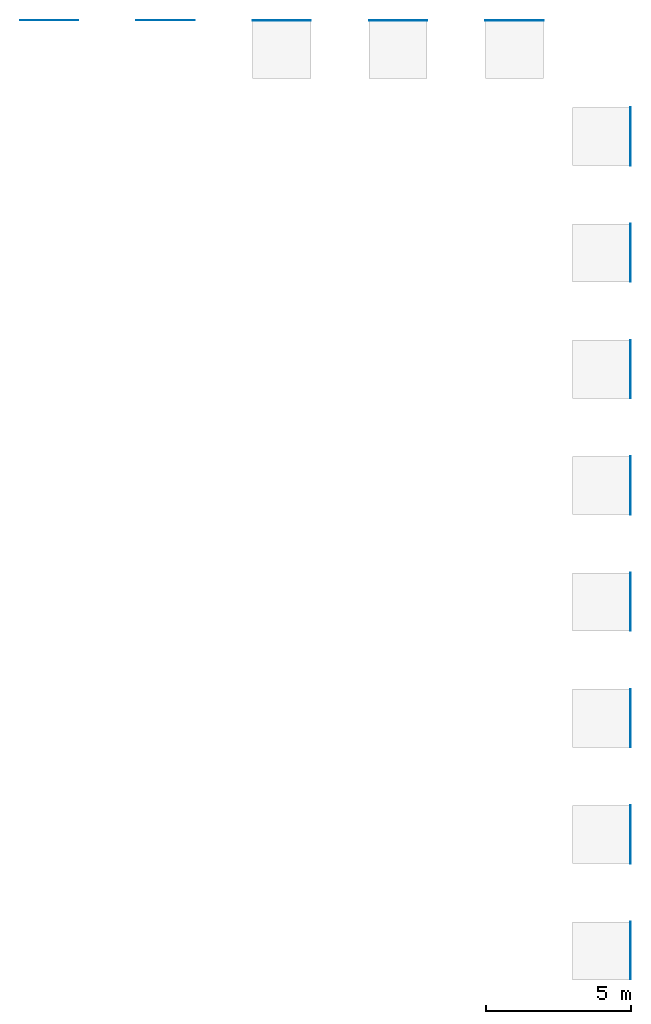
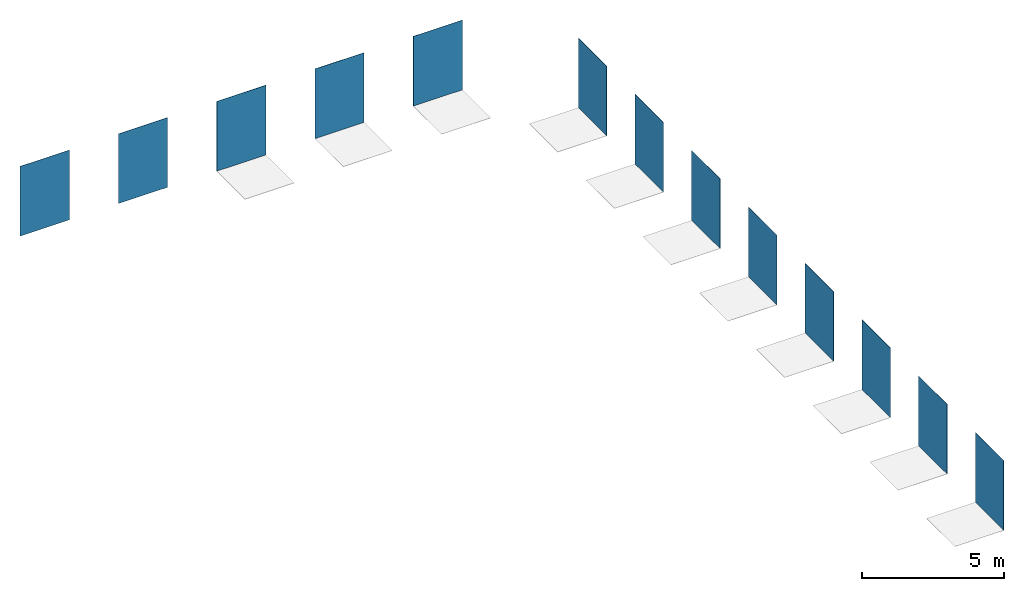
# One storey, part 1 of 2: 13 walls.
"""IFC2X3 building model written with IfcOpenShell, lengths in millimetres."""

from ifc_helpers import new_model, entity, si_unit, converted_unit, derived_unit, direction, frame, frame_2d, origin, place, context, subcontext, project, spatial, rectangle, extrude, material, layer, layer_set, layer_usage, type_object, element, save


model = new_model("IFC2X3")

# Units and contexts
model_context = context("Model", 3, precision=0.01, world=origin(), true_north=direction((6.12303176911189e-17, 1.0)))
body_context = subcontext(model_context, "Body", "Model", "MODEL_VIEW")
ifc_project = project(units=[si_unit("LENGTHUNIT", "METRE", prefix="MILLI"), si_unit("AREAUNIT", "SQUARE_METRE"), si_unit("VOLUMEUNIT", "CUBIC_METRE"), converted_unit("PLANEANGLEUNIT", "DEGREE", entity("IfcRatioMeasure", 0.0174532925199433), si_unit("PLANEANGLEUNIT", "RADIAN"), dimensions=[0, 0, 0, 0, 0, 0, 0]), si_unit("MASSUNIT", "GRAM", prefix="KILO"), derived_unit("MASSDENSITYUNIT", [(si_unit("MASSUNIT", "GRAM", prefix="KILO"), 1), (si_unit("LENGTHUNIT", "METRE"), -3)]), si_unit("TIMEUNIT", "SECOND"), si_unit("FREQUENCYUNIT", "HERTZ"), si_unit("THERMODYNAMICTEMPERATUREUNIT", "DEGREE_CELSIUS"), derived_unit("THERMALTRANSMITTANCEUNIT", [(si_unit("MASSUNIT", "GRAM", prefix="KILO"), 1), (si_unit("THERMODYNAMICTEMPERATUREUNIT", "KELVIN"), -1), (si_unit("TIMEUNIT", "SECOND"), -3)]), derived_unit("VOLUMETRICFLOWRATEUNIT", [(si_unit("LENGTHUNIT", "METRE"), 3), (si_unit("TIMEUNIT", "SECOND"), -1)]), si_unit("ELECTRICCURRENTUNIT", "AMPERE"), si_unit("ELECTRICVOLTAGEUNIT", "VOLT"), si_unit("POWERUNIT", "WATT"), si_unit("FORCEUNIT", "NEWTON", prefix="KILO"), si_unit("ILLUMINANCEUNIT", "LUX"), si_unit("LUMINOUSFLUXUNIT", "LUMEN"), si_unit("LUMINOUSINTENSITYUNIT", "CANDELA"), derived_unit("USERDEFINED", [(si_unit("MASSUNIT", "GRAM", prefix="KILO"), -1), (si_unit("LENGTHUNIT", "METRE"), -2), (si_unit("TIMEUNIT", "SECOND"), 3), (si_unit("LUMINOUSFLUXUNIT", "LUMEN"), 1)]), derived_unit("LINEARVELOCITYUNIT", [(si_unit("LENGTHUNIT", "METRE"), 1), (si_unit("TIMEUNIT", "SECOND"), -1)]), si_unit("PRESSUREUNIT", "PASCAL"), derived_unit("USERDEFINED", [(si_unit("LENGTHUNIT", "METRE"), -2), (si_unit("MASSUNIT", "GRAM", prefix="KILO"), 1), (si_unit("TIMEUNIT", "SECOND"), -2)])], contexts=[model_context])

# Site, building, storey
site_placement = place(None, origin())
site = spatial("IfcSite", under=ifc_project, at=site_placement, Name="Default", CompositionType="ELEMENT")
building_placement = place(site_placement, origin())
building = spatial("IfcBuilding", under=site, at=building_placement, CompositionType="ELEMENT")
storey_placement = place(building_placement, origin())
storey = spatial("IfcBuildingStorey", under=building, at=storey_placement, Name="Level 1", CompositionType="ELEMENT", Elevation=0.0)

# Walls
ifc_material_1 = material(Name="PGR_Porcelanosa_CeramicTiles_Boston_Topo-596x596mm-100179350")
ifc_layer_1 = layer(ifc_material_1, 10.5)
ifc_layer_set_1 = layer_set([ifc_layer_1], Name="Basic Wall:PGR_Porcelanosa_CeramicTiles_Boston_Topo-596x596mm-100179350")
ifc_layer_usage_1 = layer_usage(ifc_layer_set_1, "AXIS2", "POSITIVE", -5.25)
wall_type_1 = type_object("IfcWallType", Name="Basic Wall:PGR_Porcelanosa_CeramicTiles_Boston_Topo-596x596mm-100179350", PredefinedType="STANDARD", material=ifc_layer_set_1)
wall_1_placement = place(storey_placement, frame((2521.82742659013, -1501.98267476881, 0.0), z_axis=(0.0, 0.0, 1.0), x_axis=(0.0, -1.0, 0.0)))
element("IfcWallStandardCase", 1, at=wall_1_placement, inside=storey, type_object=wall_type_1, material=ifc_layer_usage_1, Name="Basic Wall:PGR_Porcelanosa_CeramicTiles_Boston_Topo-596x596mm-100179350", ObjectType="Basic Wall:PGR_Porcelanosa_CeramicTiles_Boston_Topo-596x596mm-100179350", context=body_context, shape_type="SweptSolid", body=[
    extrude(rectangle(XDim=2000.0, YDim=10.4999999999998, at=frame_2d((1000.0, 7.54951656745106e-15), x_axis=(-1.0, 0.0))), origin(), (0.0, 0.0, 1.0), 3000.00000000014),
])
ifc_material_2 = material(Name="PGR_Porcelanosa_CeramicTiles_Boston_Bone-435x659mm-100179098")
ifc_layer_2 = layer(ifc_material_2, 10.5)
ifc_layer_set_2 = layer_set([ifc_layer_2], Name="Basic Wall:PGR_Porcelanosa_CeramicTiles_Boston_Bone-435x659mm-100179098")
ifc_layer_usage_2 = layer_usage(ifc_layer_set_2, "AXIS2", "POSITIVE", -5.25)
wall_type_2 = type_object("IfcWallType", Name="Basic Wall:PGR_Porcelanosa_CeramicTiles_Boston_Bone-435x659mm-100179098", PredefinedType="STANDARD", material=ifc_layer_set_2)
wall_2_placement = place(storey_placement, frame((2521.82742659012, -5501.98267476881, 0.0), z_axis=(0.0, 0.0, 1.0), x_axis=(0.0, -1.0, 0.0)))
element("IfcWallStandardCase", 2, at=wall_2_placement, inside=storey, type_object=wall_type_2, material=ifc_layer_usage_2, Name="Basic Wall:PGR_Porcelanosa_CeramicTiles_Boston_Bone-435x659mm-100179098", ObjectType="Basic Wall:PGR_Porcelanosa_CeramicTiles_Boston_Bone-435x659mm-100179098", context=body_context, shape_type="SweptSolid", body=[
    extrude(rectangle(XDim=2000.0, YDim=10.4999999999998, at=frame_2d((1000.0, 7.54951656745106e-15), x_axis=(-1.0, 0.0))), origin(), (0.0, 0.0, 1.0), 3000.00000000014),
])
ifc_material_3 = material(Name="PGR_Porcelanosa_CeramicTiles_Boston_Grafito-435x659mm-100179191")
ifc_layer_3 = layer(ifc_material_3, 10.5)
ifc_layer_set_3 = layer_set([ifc_layer_3], Name="Basic Wall:PGR_Porcelanosa_CeramicTiles_Boston_Grafito-435x659mm-100179191")
ifc_layer_usage_3 = layer_usage(ifc_layer_set_3, "AXIS2", "POSITIVE", -5.25)
wall_type_3 = type_object("IfcWallType", Name="Basic Wall:PGR_Porcelanosa_CeramicTiles_Boston_Grafito-435x659mm-100179191", PredefinedType="STANDARD", material=ifc_layer_set_3)
wall_3_placement = place(storey_placement, frame((2521.82742659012, -9501.98267476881, 0.0), z_axis=(0.0, 0.0, 1.0), x_axis=(0.0, -1.0, 0.0)))
element("IfcWallStandardCase", 3, at=wall_3_placement, inside=storey, type_object=wall_type_3, material=ifc_layer_usage_3, Name="Basic Wall:PGR_Porcelanosa_CeramicTiles_Boston_Grafito-435x659mm-100179191", ObjectType="Basic Wall:PGR_Porcelanosa_CeramicTiles_Boston_Grafito-435x659mm-100179191", context=body_context, shape_type="SweptSolid", body=[
    extrude(rectangle(XDim=2000.0, YDim=10.4999999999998, at=frame_2d((1000.0, 7.54951656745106e-15), x_axis=(-1.0, 0.0))), origin(), (0.0, 0.0, 1.0), 3000.00000000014),
])
ifc_material_4 = material(Name="PGR_Porcelanosa_CeramicTiles_Boston_Grafito_Antislip-435x659mm-100180940")
ifc_layer_4 = layer(ifc_material_4, 10.5)
ifc_layer_set_4 = layer_set([ifc_layer_4], Name="Basic Wall:PGR_Porcelanosa_CeramicTiles_Boston_Grafito_Antislip-435x659mm-100180940")
ifc_layer_usage_4 = layer_usage(ifc_layer_set_4, "AXIS2", "POSITIVE", -5.25)
wall_type_4 = type_object("IfcWallType", Name="Basic Wall:PGR_Porcelanosa_CeramicTiles_Boston_Grafito_Antislip-435x659mm-100180940", PredefinedType="STANDARD", material=ifc_layer_set_4)
wall_4_placement = place(storey_placement, frame((2521.82742659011, -13501.9826747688, 0.0), z_axis=(0.0, 0.0, 1.0), x_axis=(0.0, -1.0, 0.0)))
element("IfcWallStandardCase", 4, at=wall_4_placement, inside=storey, type_object=wall_type_4, material=ifc_layer_usage_4, Name="Basic Wall:PGR_Porcelanosa_CeramicTiles_Boston_Grafito_Antislip-435x659mm-100180940", ObjectType="Basic Wall:PGR_Porcelanosa_CeramicTiles_Boston_Grafito_Antislip-435x659mm-100180940", context=body_context, shape_type="SweptSolid", body=[
    extrude(rectangle(XDim=2000.0, YDim=10.4999999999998, at=frame_2d((1000.0, 7.54951656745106e-15), x_axis=(-1.0, 0.0))), origin(), (0.0, 0.0, 1.0), 3000.00000000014),
])
ifc_material_5 = material(Name="PGR_Porcelanosa_CeramicTiles_Boston_Stone-435x659mm-100179183")
ifc_layer_5 = layer(ifc_material_5, 10.5)
ifc_layer_set_5 = layer_set([ifc_layer_5], Name="Basic Wall:PGR_Porcelanosa_CeramicTiles_Boston_Stone-435x659mm-100179183")
ifc_layer_usage_5 = layer_usage(ifc_layer_set_5, "AXIS2", "POSITIVE", -5.25)
wall_type_5 = type_object("IfcWallType", Name="Basic Wall:PGR_Porcelanosa_CeramicTiles_Boston_Stone-435x659mm-100179183", PredefinedType="STANDARD", material=ifc_layer_set_5)
wall_5_placement = place(storey_placement, frame((2521.8274265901, -17501.9826747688, 0.0), z_axis=(0.0, 0.0, 1.0), x_axis=(0.0, -1.0, 0.0)))
element("IfcWallStandardCase", 5, at=wall_5_placement, inside=storey, type_object=wall_type_5, material=ifc_layer_usage_5, Name="Basic Wall:PGR_Porcelanosa_CeramicTiles_Boston_Stone-435x659mm-100179183", ObjectType="Basic Wall:PGR_Porcelanosa_CeramicTiles_Boston_Stone-435x659mm-100179183", context=body_context, shape_type="SweptSolid", body=[
    extrude(rectangle(XDim=2000.0, YDim=10.4999999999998, at=frame_2d((1000.0, 7.54951656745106e-15), x_axis=(-1.0, 0.0))), origin(), (0.0, 0.0, 1.0), 3000.00000000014),
])
ifc_material_6 = material(Name="PGR_Porcelanosa_CeramicTiles_Boston_Stone_Antislip-435x659mm-100180941")
ifc_layer_6 = layer(ifc_material_6, 10.5)
ifc_layer_set_6 = layer_set([ifc_layer_6], Name="Basic Wall:PGR_Porcelanosa_CeramicTiles_Boston_Stone_Antislip-435x659mm-100180941")
ifc_layer_usage_6 = layer_usage(ifc_layer_set_6, "AXIS2", "POSITIVE", -5.25)
wall_type_6 = type_object("IfcWallType", Name="Basic Wall:PGR_Porcelanosa_CeramicTiles_Boston_Stone_Antislip-435x659mm-100180941", PredefinedType="STANDARD", material=ifc_layer_set_6)
wall_6_placement = place(storey_placement, frame((2521.8274265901, -21501.9826747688, 0.0), z_axis=(0.0, 0.0, 1.0), x_axis=(0.0, -1.0, 0.0)))
element("IfcWallStandardCase", 6, at=wall_6_placement, inside=storey, type_object=wall_type_6, material=ifc_layer_usage_6, Name="Basic Wall:PGR_Porcelanosa_CeramicTiles_Boston_Stone_Antislip-435x659mm-100180941", ObjectType="Basic Wall:PGR_Porcelanosa_CeramicTiles_Boston_Stone_Antislip-435x659mm-100180941", context=body_context, shape_type="SweptSolid", body=[
    extrude(rectangle(XDim=2000.0, YDim=10.4999999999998, at=frame_2d((1000.0, 7.54951656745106e-15), x_axis=(-1.0, 0.0))), origin(), (0.0, 0.0, 1.0), 3000.00000000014),
])
ifc_material_7 = material(Name="PGR_Porcelanosa_CeramicTiles_Boston_Topo-435x659mm-100179203")
ifc_layer_7 = layer(ifc_material_7, 10.5)
ifc_layer_set_7 = layer_set([ifc_layer_7], Name="Basic Wall:PGR_Porcelanosa_CeramicTiles_Boston_Topo-435x659mm-100179203")
ifc_layer_usage_7 = layer_usage(ifc_layer_set_7, "AXIS2", "POSITIVE", -5.25)
wall_type_7 = type_object("IfcWallType", Name="Basic Wall:PGR_Porcelanosa_CeramicTiles_Boston_Topo-435x659mm-100179203", PredefinedType="STANDARD", material=ifc_layer_set_7)
wall_7_placement = place(storey_placement, frame((2521.82742659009, -25501.9826747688, 0.0), z_axis=(0.0, 0.0, 1.0), x_axis=(0.0, -1.0, 0.0)))
element("IfcWallStandardCase", 7, at=wall_7_placement, inside=storey, type_object=wall_type_7, material=ifc_layer_usage_7, Name="Basic Wall:PGR_Porcelanosa_CeramicTiles_Boston_Topo-435x659mm-100179203", ObjectType="Basic Wall:PGR_Porcelanosa_CeramicTiles_Boston_Topo-435x659mm-100179203", context=body_context, shape_type="SweptSolid", body=[
    extrude(rectangle(XDim=2000.0, YDim=10.4999999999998, at=frame_2d((1000.0, 7.54951656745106e-15), x_axis=(-1.0, 0.0))), origin(), (0.0, 0.0, 1.0), 3000.00000000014),
])
ifc_material_8 = material(Name="PGR_Porcelanosa_CeramicTiles_Boston_Topo_Antislip-435x659mm-100180913")
ifc_layer_8 = layer(ifc_material_8, 10.5)
ifc_layer_set_8 = layer_set([ifc_layer_8], Name="Basic Wall:PGR_Porcelanosa_CeramicTiles_Boston_Topo_Antislip-435x659mm-100180913")
ifc_layer_usage_8 = layer_usage(ifc_layer_set_8, "AXIS2", "POSITIVE", -5.25)
wall_type_8 = type_object("IfcWallType", Name="Basic Wall:PGR_Porcelanosa_CeramicTiles_Boston_Topo_Antislip-435x659mm-100180913", PredefinedType="STANDARD", material=ifc_layer_set_8)
wall_8_placement = place(storey_placement, frame((2521.82742659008, -29501.9826747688, 0.0), z_axis=(0.0, 0.0, 1.0), x_axis=(0.0, -1.0, 0.0)))
element("IfcWallStandardCase", 8, at=wall_8_placement, inside=storey, type_object=wall_type_8, material=ifc_layer_usage_8, Name="Basic Wall:PGR_Porcelanosa_CeramicTiles_Boston_Topo_Antislip-435x659mm-100180913", ObjectType="Basic Wall:PGR_Porcelanosa_CeramicTiles_Boston_Topo_Antislip-435x659mm-100180913", context=body_context, shape_type="SweptSolid", body=[
    extrude(rectangle(XDim=2000.0, YDim=10.4999999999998, at=frame_2d((1000.0, 7.54951656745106e-15), x_axis=(-1.0, 0.0))), origin(), (0.0, 0.0, 1.0), 3000.00000000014),
])
ifc_material_9 = material(Name="PGR_Porcelanosa_CeramicTiles_Boston_Bone-596x1800mm-100179347")
ifc_layer_9 = layer(ifc_material_9, 11.5)
ifc_layer_set_9 = layer_set([ifc_layer_9], Name="Basic Wall:PGR_Porcelanosa_CeramicTiles_Boston_Bone-596x1800mm-100179347")
ifc_layer_usage_9 = layer_usage(ifc_layer_set_9, "AXIS2", "POSITIVE", -5.75)
wall_type_9 = type_object("IfcWallType", Name="Basic Wall:PGR_Porcelanosa_CeramicTiles_Boston_Bone-596x1800mm-100179347", PredefinedType="STANDARD", material=ifc_layer_set_9)
wall_9_placement = place(storey_placement, frame((-2472.92257340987, 1492.26732523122, 0.0)))
element("IfcWallStandardCase", 9, at=wall_9_placement, inside=storey, type_object=wall_type_9, material=ifc_layer_usage_9, Name="Basic Wall:PGR_Porcelanosa_CeramicTiles_Boston_Bone-596x1800mm-100179347", ObjectType="Basic Wall:PGR_Porcelanosa_CeramicTiles_Boston_Bone-596x1800mm-100179347", context=body_context, shape_type="SweptSolid", body=[
    extrude(rectangle(XDim=2000.0, YDim=11.5000000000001, at=frame_2d((1000.0, 3.10862446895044e-14), x_axis=(-1.0, 0.0))), origin(), (0.0, 0.0, 1.0), 3000.00000000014),
])
ifc_material_10 = material(Name="PGR_Porcelanosa_CeramicTiles_Boston_Stone-596x1800mm-100179318")
ifc_layer_10 = layer(ifc_material_10, 11.5)
ifc_layer_set_10 = layer_set([ifc_layer_10], Name="Basic Wall:PGR_Porcelanosa_CeramicTiles_Boston_Stone-596x1800mm-100179318")
ifc_layer_usage_10 = layer_usage(ifc_layer_set_10, "AXIS2", "POSITIVE", -5.75)
wall_type_10 = type_object("IfcWallType", Name="Basic Wall:PGR_Porcelanosa_CeramicTiles_Boston_Stone-596x1800mm-100179318", PredefinedType="STANDARD", material=ifc_layer_set_10)
wall_10_placement = place(storey_placement, frame((-6472.92257340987, 1492.26732523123, 0.0)))
element("IfcWallStandardCase", 10, at=wall_10_placement, inside=storey, type_object=wall_type_10, material=ifc_layer_usage_10, Name="Basic Wall:PGR_Porcelanosa_CeramicTiles_Boston_Stone-596x1800mm-100179318", ObjectType="Basic Wall:PGR_Porcelanosa_CeramicTiles_Boston_Stone-596x1800mm-100179318", context=body_context, shape_type="SweptSolid", body=[
    extrude(rectangle(XDim=2000.0, YDim=11.5000000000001, at=frame_2d((1000.0, 3.10862446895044e-14), x_axis=(-1.0, 0.0))), origin(), (0.0, 0.0, 1.0), 3000.00000000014),
])
ifc_material_11 = material(Name="PGR_Porcelanosa_CeramicTiles_Boston_Topo-596x1800mm-100179326")
ifc_layer_11 = layer(ifc_material_11, 11.5)
ifc_layer_set_11 = layer_set([ifc_layer_11], Name="Basic Wall:PGR_Porcelanosa_CeramicTiles_Boston_Topo-596x1800mm-100179326")
ifc_layer_usage_11 = layer_usage(ifc_layer_set_11, "AXIS2", "POSITIVE", -5.75)
wall_type_11 = type_object("IfcWallType", Name="Basic Wall:PGR_Porcelanosa_CeramicTiles_Boston_Topo-596x1800mm-100179326", PredefinedType="STANDARD", material=ifc_layer_set_11)
wall_11_placement = place(storey_placement, frame((-10472.9225734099, 1492.26732523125, 0.0)))
element("IfcWallStandardCase", 11, at=wall_11_placement, inside=storey, type_object=wall_type_11, material=ifc_layer_usage_11, Name="Basic Wall:PGR_Porcelanosa_CeramicTiles_Boston_Topo-596x1800mm-100179326", ObjectType="Basic Wall:PGR_Porcelanosa_CeramicTiles_Boston_Topo-596x1800mm-100179326", context=body_context, shape_type="SweptSolid", body=[
    extrude(rectangle(XDim=2000.0, YDim=11.5000000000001, at=frame_2d((1000.0, 3.10862446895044e-14), x_axis=(-1.0, 0.0))), origin(), (0.0, 0.0, 1.0), 3000.00000000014),
])
ifc_material_12 = material(Name="PGR_Porcelanosa_CeramicTiles_Boston_Topo-316x900mm-100179290")
ifc_layer_12 = layer(ifc_material_12, 9.0)
ifc_layer_set_12 = layer_set([ifc_layer_12], Name="Basic Wall:PGR_Porcelanosa_CeramicTiles_Boston_Topo-316x900mm-100179290")
ifc_layer_usage_12 = layer_usage(ifc_layer_set_12, "AXIS2", "NEGATIVE", 4.5)
wall_type_12 = type_object("IfcWallType", Name="Basic Wall:PGR_Porcelanosa_CeramicTiles_Boston_Topo-316x900mm-100179290", PredefinedType="STANDARD", material=ifc_layer_set_12)
wall_12_placement = place(storey_placement, frame((-18472.9225734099, 1501.51732523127, 0.0)))
element("IfcWallStandardCase", 12, at=wall_12_placement, inside=storey, type_object=wall_type_12, material=ifc_layer_usage_12, Name="Basic Wall:PGR_Porcelanosa_CeramicTiles_Boston_Topo-316x900mm-100179290", ObjectType="Basic Wall:PGR_Porcelanosa_CeramicTiles_Boston_Topo-316x900mm-100179290", context=body_context, shape_type="SweptSolid", body=[
    extrude(rectangle(XDim=2000.0, YDim=9.00000000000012, at=frame_2d((1000.0, 0.0), x_axis=(-1.0, 0.0))), origin(), (0.0, 0.0, 1.0), 2999.99999999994),
])
ifc_material_13 = material(Name="PGR_Porcelanosa_CeramicTiles_Boston_Bone-316x900mm-100179282")
ifc_layer_13 = layer(ifc_material_13, 9.0)
ifc_layer_set_13 = layer_set([ifc_layer_13], Name="Basic Wall:PGR_Porcelanosa_CeramicTiles_Boston_Bone-316x900mm-100179282")
ifc_layer_usage_13 = layer_usage(ifc_layer_set_13, "AXIS2", "NEGATIVE", 4.5)
wall_type_13 = type_object("IfcWallType", Name="Basic Wall:PGR_Porcelanosa_CeramicTiles_Boston_Bone-316x900mm-100179282", PredefinedType="STANDARD", material=ifc_layer_set_13)
wall_13_placement = place(storey_placement, frame((-14472.9225734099, 1501.51732523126, 0.0)))
element("IfcWallStandardCase", 13, at=wall_13_placement, inside=storey, type_object=wall_type_13, material=ifc_layer_usage_13, Name="Basic Wall:PGR_Porcelanosa_CeramicTiles_Boston_Bone-316x900mm-100179282", ObjectType="Basic Wall:PGR_Porcelanosa_CeramicTiles_Boston_Bone-316x900mm-100179282", context=body_context, shape_type="SweptSolid", body=[
    extrude(rectangle(XDim=2000.0, YDim=9.00000000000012, at=frame_2d((1000.0, 0.0), x_axis=(-1.0, 0.0))), origin(), (0.0, 0.0, 1.0), 2999.99999999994),
])

save(model, "model.ifc")
